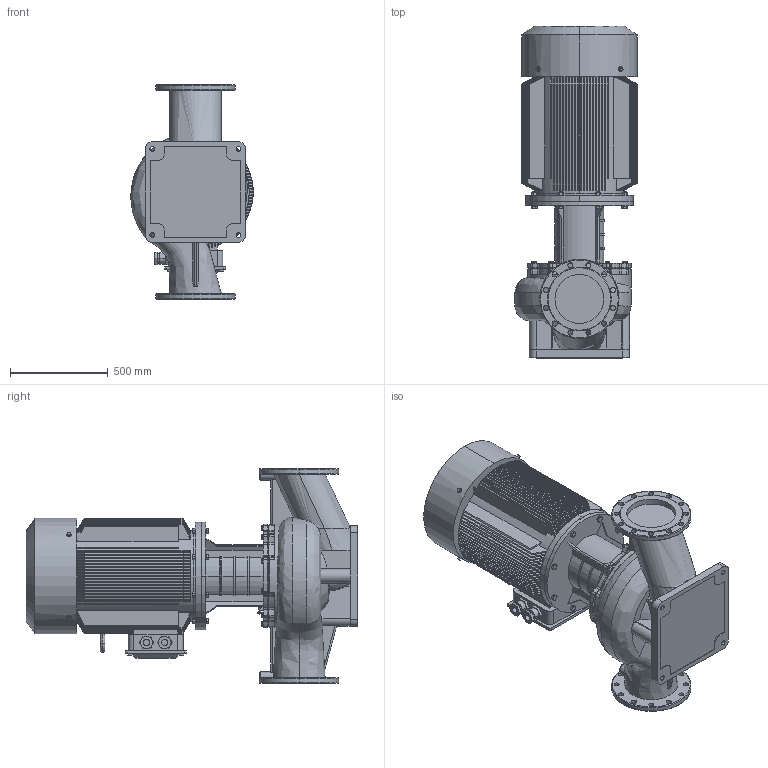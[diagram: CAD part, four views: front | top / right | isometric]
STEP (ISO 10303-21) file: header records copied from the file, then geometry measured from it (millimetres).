
FILE_DESCRIPTION (( 'STEP AP203' ), '1' );
FILE_NAME ('TD250-32-4安装尺寸图.stp.STEP', '2026-09-11T06:07:56', ( '微软用户' ), ( '微软中国' ), 'SwSTEP 2.0', 'SolidWorks 2020', '' );
FILE_SCHEMA (( 'CONFIG_CONTROL_DESIGN' ));
Products named in the file (1): TD250-32-4假蚾喜渡芞.stp
Bounding box: 624.71 x 1694 x 1100 mm (x, y, z)
Volume: 359041013.4 mm3; surface area: 11508456.9 mm2
Topology: 1 solids, 12 shells, 1929 faces, 4807 edges, 2989 vertices
Faces by surface type: plane 742, cylinder 591, cone 434, torus 110, bspline 28, sphere 24
Entity records: 83771 total; most frequent: CARTESIAN_POINT 38261, ORIENTED_EDGE 9566, DIRECTION 9485, EDGE_CURVE 4783, AXIS2_PLACEMENT_3D 3790, VERTEX_POINT 2989, EDGE_LOOP 2136, FACE_OUTER_BOUND 1929
